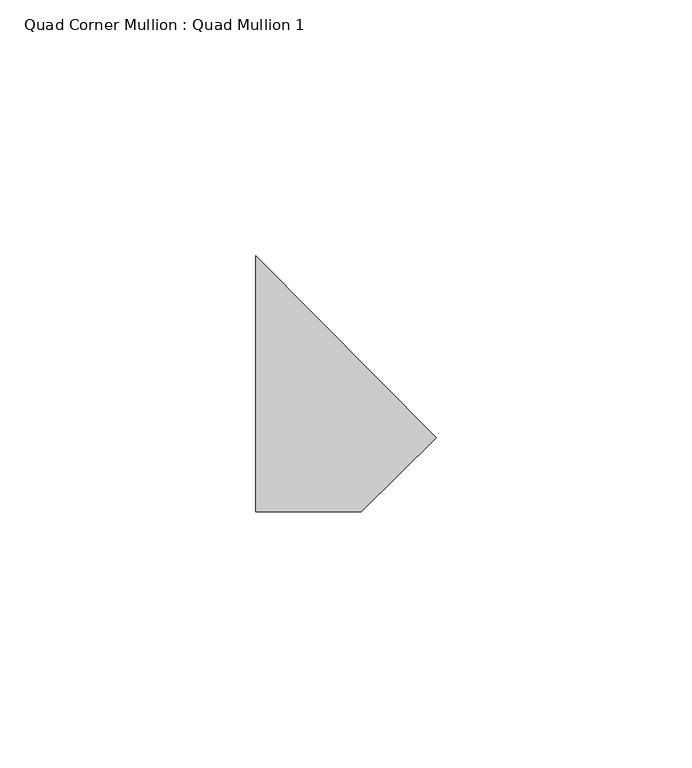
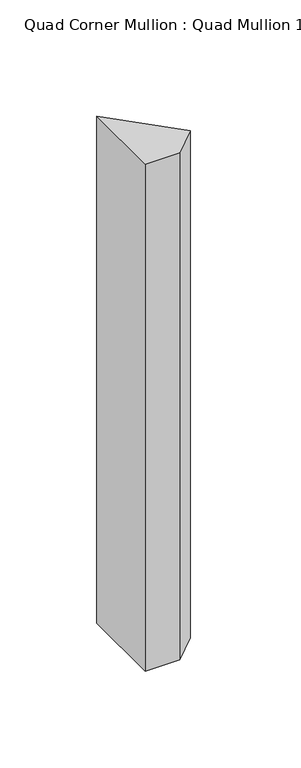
"""IFC4 building model written with IfcOpenShell, lengths in millimetres: member geometry, Quad Corner Mullion : Quad Mullion 1."""

from ifc_helpers import new_model, si_unit, frame, origin, place, context, project, spatial, polyline, outline, extrude, source, transform, mapped, element, save


def quad_corner_mullion_quad_mullion_1_47fa78be(model_context):
    return source(origin(), model_context, "Body", "SweptSolid", [
        extrude(outline(polyline([(24.9061874, -10.5144095), (10.2893623, -25.0), (-10.2893623, -25.0), (-10.2893623, 25.0), (24.9061874, -10.5144095)])), frame((0.0, 0.0, -320.0), z_axis=(0.0, 0.0, 1.0), x_axis=(1.0, 0.0, 0.0)), (0.0, 0.0, 1.0), 320.0),
    ])


if __name__ == "__main__":
    model = new_model("IFC4")
    model_context = context("Model", 3, world=origin())
    ifc_project = project(units=[si_unit("LENGTHUNIT", "METRE", prefix="MILLI")], contexts=[model_context])
    site = spatial("IfcSite", under=ifc_project)
    building = spatial("IfcBuilding", under=site)
    placement = place(None, origin())
    quad_corner_mullion_quad_mullion_1_shape = quad_corner_mullion_quad_mullion_1_47fa78be(model_context)
    element("IfcMember", 1, ObjectType="Quad Corner Mullion : Quad Mullion 1", at=placement, inside=building, context=model_context, shape_type="MappedRepresentation", body=[
        mapped(quad_corner_mullion_quad_mullion_1_shape, transform((0.0, 0.0, 0.0), x_axis=(1.0, 0.0, 0.0), y_axis=(0.0, 1.0, 0.0), z_axis=(0.0, 0.0, 1.0))),
    ])
    save(model, "model.ifc")
